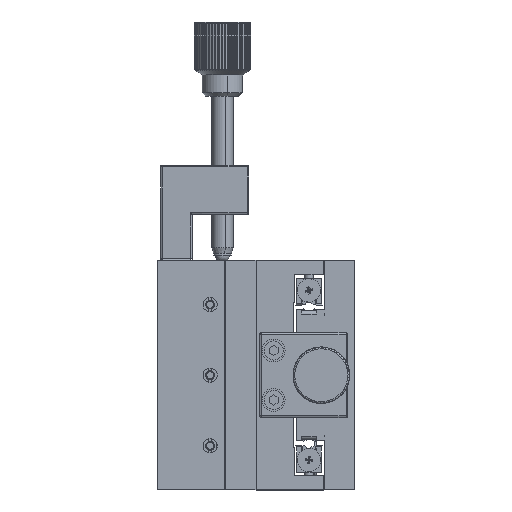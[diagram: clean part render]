
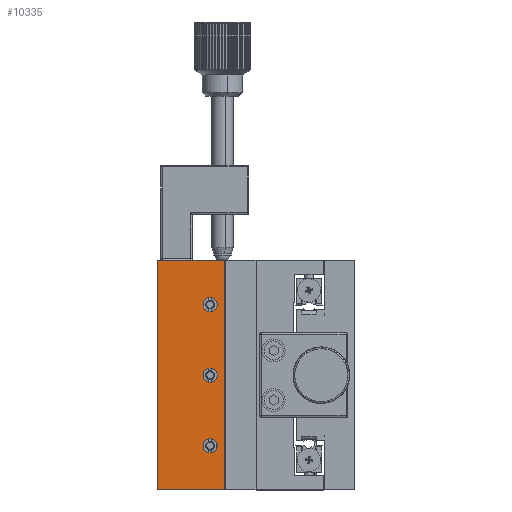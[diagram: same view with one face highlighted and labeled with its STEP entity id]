
A CAD part, left-side view. The second image highlights one B-rep face of the part: STEP entity #10335.
In plain terms, the highlighted planar face has unit normal (-1, 0, 0).
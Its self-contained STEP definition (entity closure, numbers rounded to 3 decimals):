
#614 = CARTESIAN_POINT ( 'NONE',  ( -17.128, 9.641, -32.5 ) ) ;
#624 = CARTESIAN_POINT ( 'NONE',  ( -17.128, 13.641, 2. ) ) ;
#631 = CARTESIAN_POINT ( 'NONE',  ( -17.128, 9.641, 32.5 ) ) ;
#632 = CARTESIAN_POINT ( 'NONE',  ( -17.128, 13.641, -22. ) ) ;
#634 = CARTESIAN_POINT ( 'NONE',  ( -17.128, 13.641, -18. ) ) ;
#636 = CARTESIAN_POINT ( 'NONE',  ( -17.128, 13.641, 22. ) ) ;
#656 = CARTESIAN_POINT ( 'NONE',  ( -17.128, 28.641, -32.5 ) ) ;
#678 = CARTESIAN_POINT ( 'NONE',  ( -17.128, 28.641, 32.5 ) ) ;
#710 = CARTESIAN_POINT ( 'NONE',  ( -17.128, 13.641, -2. ) ) ;
#721 = CARTESIAN_POINT ( 'NONE',  ( -17.128, 13.641, 18. ) ) ;
#2414 = FACE_OUTER_BOUND ( 'NONE', #32611, .T. ) ;
#2419 = FACE_BOUND ( 'NONE', #32654, .T. ) ;
#2421 = FACE_BOUND ( 'NONE', #32604, .T. ) ;
#2432 = FACE_BOUND ( 'NONE', #32634, .T. ) ;
#2467 = VECTOR ( 'NONE', #6061, 1000. ) ;
#2468 = LINE ( 'NONE', #6055, #2467 ) ;
#5566 = DIRECTION ( 'NONE',  ( -1., 0., 0. ) ) ;
#5568 = DIRECTION ( 'NONE',  ( 0., 0., -1. ) ) ;
#5587 = CARTESIAN_POINT ( 'NONE',  ( -17.128, 13.641, 20. ) ) ;
#5598 = DIRECTION ( 'NONE',  ( 0., 0., -1. ) ) ;
#5603 = CARTESIAN_POINT ( 'NONE',  ( -17.128, 13.641, 0. ) ) ;
#5604 = DIRECTION ( 'NONE',  ( -1., 0., 0. ) ) ;
#5699 = CARTESIAN_POINT ( 'NONE',  ( -17.128, 13.641, -20. ) ) ;
#5702 = DIRECTION ( 'NONE',  ( 0., 0., -1. ) ) ;
#5723 = DIRECTION ( 'NONE',  ( -1., 0., 0. ) ) ;
#5787 = CARTESIAN_POINT ( 'NONE',  ( -17.128, 13.641, 20. ) ) ;
#5790 = DIRECTION ( 'NONE',  ( 0., 0., -1. ) ) ;
#5794 = DIRECTION ( 'NONE',  ( 0., -1., 0. ) ) ;
#5797 = DIRECTION ( 'NONE',  ( -1., 0., 0. ) ) ;
#5799 = CARTESIAN_POINT ( 'NONE',  ( -17.128, 28.641, 32.5 ) ) ;
#5813 = CARTESIAN_POINT ( 'NONE',  ( -17.128, 13.641, 0. ) ) ;
#5820 = CARTESIAN_POINT ( 'NONE',  ( -17.128, 28.641, 32.5 ) ) ;
#5826 = DIRECTION ( 'NONE',  ( 0., 0., -1. ) ) ;
#5842 = DIRECTION ( 'NONE',  ( -1., 0., 0. ) ) ;
#5843 = DIRECTION ( 'NONE',  ( 0., 0., -1. ) ) ;
#5898 = DIRECTION ( 'NONE',  ( -1., 0., 0. ) ) ;
#5901 = CARTESIAN_POINT ( 'NONE',  ( -17.128, 28.641, -32.5 ) ) ;
#5912 = CARTESIAN_POINT ( 'NONE',  ( -17.128, 13.641, -20. ) ) ;
#5913 = DIRECTION ( 'NONE',  ( 0., 0., -1. ) ) ;
#5927 = DIRECTION ( 'NONE',  ( 0., -1., 0. ) ) ;
#6055 = CARTESIAN_POINT ( 'NONE',  ( -17.128, 9.641, 32.5 ) ) ;
#6061 = DIRECTION ( 'NONE',  ( 0., 0., -1. ) ) ;
#10335 = ADVANCED_FACE ( 'NONE', ( #2421, #2419, #2432, #2414 ), #15468, .F. ) ;
#15314 = DIRECTION ( 'NONE',  ( 0., 0., 1. ) ) ;
#15397 = CARTESIAN_POINT ( 'NONE',  ( -17.128, 28.641, 32.5 ) ) ;
#15441 = DIRECTION ( 'NONE',  ( 1., 0., 0. ) ) ;
#15468 = PLANE ( 'NONE',  #17927 ) ;
#15497 = AXIS2_PLACEMENT_3D ( 'NONE', #5603, #5604, #5568 ) ;
#15503 = AXIS2_PLACEMENT_3D ( 'NONE', #5699, #5723, #5702 ) ;
#15620 = AXIS2_PLACEMENT_3D ( 'NONE', #5587, #5566, #5598 ) ;
#15721 = AXIS2_PLACEMENT_3D ( 'NONE', #5787, #5797, #5790 ) ;
#15794 = AXIS2_PLACEMENT_3D ( 'NONE', #5813, #5842, #5843 ) ;
#15825 = AXIS2_PLACEMENT_3D ( 'NONE', #5912, #5898, #5913 ) ;
#17889 = VERTEX_POINT ( 'NONE', #624 ) ;
#17895 = VERTEX_POINT ( 'NONE', #632 ) ;
#17927 = AXIS2_PLACEMENT_3D ( 'NONE', #15397, #15441, #15314 ) ;
#17931 = VERTEX_POINT ( 'NONE', #634 ) ;
#17940 = VERTEX_POINT ( 'NONE', #656 ) ;
#17951 = VERTEX_POINT ( 'NONE', #631 ) ;
#17960 = VERTEX_POINT ( 'NONE', #636 ) ;
#17992 = VERTEX_POINT ( 'NONE', #614 ) ;
#18070 = VERTEX_POINT ( 'NONE', #678 ) ;
#18076 = VERTEX_POINT ( 'NONE', #710 ) ;
#18111 = VERTEX_POINT ( 'NONE', #721 ) ;
#19625 = CIRCLE ( 'NONE', #15721, 2. ) ;
#19632 = VECTOR ( 'NONE', #5794, 1000. ) ;
#19662 = LINE ( 'NONE', #5820, #19681 ) ;
#19675 = LINE ( 'NONE', #5799, #19632 ) ;
#19677 = CIRCLE ( 'NONE', #15794, 2. ) ;
#19681 = VECTOR ( 'NONE', #5826, 1000. ) ;
#19710 = LINE ( 'NONE', #5901, #19713 ) ;
#19713 = VECTOR ( 'NONE', #5927, 1000. ) ;
#19714 = CIRCLE ( 'NONE', #15825, 2. ) ;
#21593 = EDGE_CURVE ( 'NONE', #17960, #18111, #22623, .T. ) ;
#21596 = EDGE_CURVE ( 'NONE', #17889, #18076, #22591, .T. ) ;
#21945 = EDGE_CURVE ( 'NONE', #17931, #17895, #22270, .T. ) ;
#22037 = EDGE_CURVE ( 'NONE', #18111, #17960, #19625, .T. ) ;
#22045 = EDGE_CURVE ( 'NONE', #18070, #17951, #19675, .T. ) ;
#22073 = EDGE_CURVE ( 'NONE', #18076, #17889, #19677, .T. ) ;
#22081 = EDGE_CURVE ( 'NONE', #18070, #17940, #19662, .T. ) ;
#22123 = EDGE_CURVE ( 'NONE', #17940, #17992, #19710, .T. ) ;
#22125 = EDGE_CURVE ( 'NONE', #17895, #17931, #19714, .T. ) ;
#22231 = EDGE_CURVE ( 'NONE', #17951, #17992, #2468, .T. ) ;
#22270 = CIRCLE ( 'NONE', #15503, 2. ) ;
#22591 = CIRCLE ( 'NONE', #15497, 2. ) ;
#22623 = CIRCLE ( 'NONE', #15620, 2. ) ;
#24498 = ORIENTED_EDGE ( 'NONE', *, *, #22081, .T. ) ;
#24499 = ORIENTED_EDGE ( 'NONE', *, *, #21596, .F. ) ;
#24503 = ORIENTED_EDGE ( 'NONE', *, *, #21593, .F. ) ;
#24504 = ORIENTED_EDGE ( 'NONE', *, *, #22045, .F. ) ;
#24507 = ORIENTED_EDGE ( 'NONE', *, *, #21945, .F. ) ;
#24513 = ORIENTED_EDGE ( 'NONE', *, *, #22125, .F. ) ;
#24515 = ORIENTED_EDGE ( 'NONE', *, *, #22231, .F. ) ;
#24540 = ORIENTED_EDGE ( 'NONE', *, *, #22073, .F. ) ;
#24546 = ORIENTED_EDGE ( 'NONE', *, *, #22123, .T. ) ;
#24603 = ORIENTED_EDGE ( 'NONE', *, *, #22037, .F. ) ;
#32604 = EDGE_LOOP ( 'NONE', ( #24603, #24503 ) ) ;
#32611 = EDGE_LOOP ( 'NONE', ( #24546, #24515, #24504, #24498 ) ) ;
#32634 = EDGE_LOOP ( 'NONE', ( #24513, #24507 ) ) ;
#32654 = EDGE_LOOP ( 'NONE', ( #24540, #24499 ) ) ;
